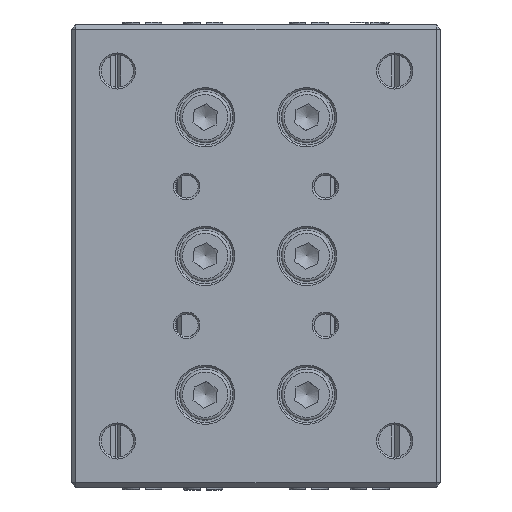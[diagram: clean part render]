
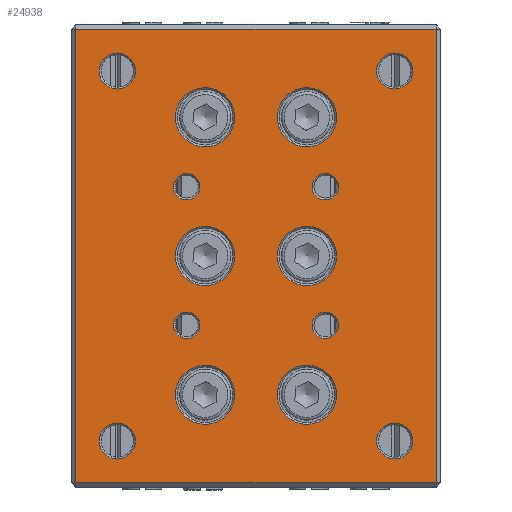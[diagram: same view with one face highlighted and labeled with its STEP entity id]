
A CAD part, front view. The second image highlights one B-rep face of the part: STEP entity #24938.
In plain terms, the highlighted planar face has unit normal (0, -1, 0).
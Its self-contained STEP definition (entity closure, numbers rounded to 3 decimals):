
#760=FACE_BOUND('',#3607,.T.);
#761=FACE_BOUND('',#3608,.T.);
#762=FACE_BOUND('',#3609,.T.);
#763=FACE_BOUND('',#3610,.T.);
#764=FACE_BOUND('',#3611,.T.);
#765=FACE_BOUND('',#3612,.T.);
#766=FACE_BOUND('',#3613,.T.);
#767=FACE_BOUND('',#3614,.T.);
#768=FACE_BOUND('',#3615,.T.);
#769=FACE_BOUND('',#3616,.T.);
#770=FACE_BOUND('',#3617,.T.);
#771=FACE_BOUND('',#3618,.T.);
#772=FACE_BOUND('',#3619,.T.);
#773=FACE_BOUND('',#3620,.T.);
#1073=PLANE('',#26545);
#2169=FACE_OUTER_BOUND('',#3606,.T.);
#3606=EDGE_LOOP('',(#17312,#17313,#17314,#17315));
#3607=EDGE_LOOP('',(#17316));
#3608=EDGE_LOOP('',(#17317));
#3609=EDGE_LOOP('',(#17318));
#3610=EDGE_LOOP('',(#17319));
#3611=EDGE_LOOP('',(#17320));
#3612=EDGE_LOOP('',(#17321));
#3613=EDGE_LOOP('',(#17322));
#3614=EDGE_LOOP('',(#17323));
#3615=EDGE_LOOP('',(#17324));
#3616=EDGE_LOOP('',(#17325));
#3617=EDGE_LOOP('',(#17326));
#3618=EDGE_LOOP('',(#17327));
#3619=EDGE_LOOP('',(#17328));
#3620=EDGE_LOOP('',(#17329));
#5311=LINE('',#35786,#7724);
#5313=LINE('',#35789,#7726);
#5327=LINE('',#35816,#7740);
#5329=LINE('',#35820,#7742);
#7724=VECTOR('',#29085,10.);
#7726=VECTOR('',#29089,10.);
#7740=VECTOR('',#29119,10.);
#7742=VECTOR('',#29125,10.);
#9911=CIRCLE('',#26546,1.43);
#9912=CIRCLE('',#26547,1.43);
#9913=CIRCLE('',#26548,1.95);
#9914=CIRCLE('',#26549,1.95);
#9915=CIRCLE('',#26550,3.2);
#9916=CIRCLE('',#26551,3.2);
#9917=CIRCLE('',#26552,3.2);
#9918=CIRCLE('',#26553,3.2);
#9919=CIRCLE('',#26554,3.2);
#9920=CIRCLE('',#26555,3.2);
#9921=CIRCLE('',#26556,1.95);
#9922=CIRCLE('',#26557,1.95);
#9923=CIRCLE('',#26558,1.43);
#9924=CIRCLE('',#26559,1.43);
#10814=VERTEX_POINT('',#35762);
#10816=VERTEX_POINT('',#35768);
#10819=VERTEX_POINT('',#35776);
#10821=VERTEX_POINT('',#35782);
#10836=VERTEX_POINT('',#35852);
#10837=VERTEX_POINT('',#35854);
#10838=VERTEX_POINT('',#35856);
#10839=VERTEX_POINT('',#35858);
#10840=VERTEX_POINT('',#35860);
#10841=VERTEX_POINT('',#35862);
#10842=VERTEX_POINT('',#35864);
#10843=VERTEX_POINT('',#35866);
#10844=VERTEX_POINT('',#35868);
#10845=VERTEX_POINT('',#35870);
#10846=VERTEX_POINT('',#35872);
#10847=VERTEX_POINT('',#35874);
#10848=VERTEX_POINT('',#35876);
#10849=VERTEX_POINT('',#35878);
#13285=EDGE_CURVE('',#10816,#10821,#5311,.T.);
#13287=EDGE_CURVE('',#10821,#10819,#5313,.T.);
#13301=EDGE_CURVE('',#10819,#10814,#5327,.T.);
#13303=EDGE_CURVE('',#10814,#10816,#5329,.T.);
#13320=EDGE_CURVE('',#10836,#10836,#9911,.T.);
#13321=EDGE_CURVE('',#10837,#10837,#9912,.T.);
#13322=EDGE_CURVE('',#10838,#10838,#9913,.T.);
#13323=EDGE_CURVE('',#10839,#10839,#9914,.T.);
#13324=EDGE_CURVE('',#10840,#10840,#9915,.T.);
#13325=EDGE_CURVE('',#10841,#10841,#9916,.T.);
#13326=EDGE_CURVE('',#10842,#10842,#9917,.T.);
#13327=EDGE_CURVE('',#10843,#10843,#9918,.T.);
#13328=EDGE_CURVE('',#10844,#10844,#9919,.T.);
#13329=EDGE_CURVE('',#10845,#10845,#9920,.T.);
#13330=EDGE_CURVE('',#10846,#10846,#9921,.T.);
#13331=EDGE_CURVE('',#10847,#10847,#9922,.T.);
#13332=EDGE_CURVE('',#10848,#10848,#9923,.T.);
#13333=EDGE_CURVE('',#10849,#10849,#9924,.T.);
#17312=ORIENTED_EDGE('',*,*,#13285,.F.);
#17313=ORIENTED_EDGE('',*,*,#13303,.F.);
#17314=ORIENTED_EDGE('',*,*,#13301,.F.);
#17315=ORIENTED_EDGE('',*,*,#13287,.F.);
#17316=ORIENTED_EDGE('',*,*,#13320,.F.);
#17317=ORIENTED_EDGE('',*,*,#13321,.F.);
#17318=ORIENTED_EDGE('',*,*,#13322,.F.);
#17319=ORIENTED_EDGE('',*,*,#13323,.F.);
#17320=ORIENTED_EDGE('',*,*,#13324,.F.);
#17321=ORIENTED_EDGE('',*,*,#13325,.F.);
#17322=ORIENTED_EDGE('',*,*,#13326,.F.);
#17323=ORIENTED_EDGE('',*,*,#13327,.F.);
#17324=ORIENTED_EDGE('',*,*,#13328,.F.);
#17325=ORIENTED_EDGE('',*,*,#13329,.F.);
#17326=ORIENTED_EDGE('',*,*,#13330,.F.);
#17327=ORIENTED_EDGE('',*,*,#13331,.F.);
#17328=ORIENTED_EDGE('',*,*,#13332,.F.);
#17329=ORIENTED_EDGE('',*,*,#13333,.F.);
#24938=ADVANCED_FACE('',(#2169,#760,#761,#762,#763,#764,#765,#766,#767,
#768,#769,#770,#771,#772,#773),#1073,.T.);
#26545=AXIS2_PLACEMENT_3D('',#35851,#29158,#29159);
#26546=AXIS2_PLACEMENT_3D('',#35853,#29160,#29161);
#26547=AXIS2_PLACEMENT_3D('',#35855,#29162,#29163);
#26548=AXIS2_PLACEMENT_3D('',#35857,#29164,#29165);
#26549=AXIS2_PLACEMENT_3D('',#35859,#29166,#29167);
#26550=AXIS2_PLACEMENT_3D('',#35861,#29168,#29169);
#26551=AXIS2_PLACEMENT_3D('',#35863,#29170,#29171);
#26552=AXIS2_PLACEMENT_3D('',#35865,#29172,#29173);
#26553=AXIS2_PLACEMENT_3D('',#35867,#29174,#29175);
#26554=AXIS2_PLACEMENT_3D('',#35869,#29176,#29177);
#26555=AXIS2_PLACEMENT_3D('',#35871,#29178,#29179);
#26556=AXIS2_PLACEMENT_3D('',#35873,#29180,#29181);
#26557=AXIS2_PLACEMENT_3D('',#35875,#29182,#29183);
#26558=AXIS2_PLACEMENT_3D('',#35877,#29184,#29185);
#26559=AXIS2_PLACEMENT_3D('',#35879,#29186,#29187);
#29085=DIRECTION('',(1.,0.,0.));
#29089=DIRECTION('',(0.,0.,-1.));
#29119=DIRECTION('',(-1.,0.,0.));
#29125=DIRECTION('',(0.,0.,1.));
#29158=DIRECTION('center_axis',(0.,-1.,0.));
#29159=DIRECTION('ref_axis',(-1.,0.,0.));
#29160=DIRECTION('center_axis',(0.,-1.,0.));
#29161=DIRECTION('ref_axis',(1.,0.,0.));
#29162=DIRECTION('center_axis',(0.,-1.,0.));
#29163=DIRECTION('ref_axis',(1.,0.,0.));
#29164=DIRECTION('center_axis',(0.,-1.,0.));
#29165=DIRECTION('ref_axis',(-1.,0.,0.));
#29166=DIRECTION('center_axis',(0.,-1.,0.));
#29167=DIRECTION('ref_axis',(-1.,0.,0.));
#29168=DIRECTION('center_axis',(0.,-1.,0.));
#29169=DIRECTION('ref_axis',(1.,0.,0.));
#29170=DIRECTION('center_axis',(0.,-1.,0.));
#29171=DIRECTION('ref_axis',(1.,0.,0.));
#29172=DIRECTION('center_axis',(0.,-1.,0.));
#29173=DIRECTION('ref_axis',(1.,0.,0.));
#29174=DIRECTION('center_axis',(0.,-1.,0.));
#29175=DIRECTION('ref_axis',(1.,0.,0.));
#29176=DIRECTION('center_axis',(0.,-1.,0.));
#29177=DIRECTION('ref_axis',(1.,0.,0.));
#29178=DIRECTION('center_axis',(0.,-1.,0.));
#29179=DIRECTION('ref_axis',(1.,0.,0.));
#29180=DIRECTION('center_axis',(0.,-1.,0.));
#29181=DIRECTION('ref_axis',(-1.,0.,0.));
#29182=DIRECTION('center_axis',(0.,-1.,0.));
#29183=DIRECTION('ref_axis',(-1.,0.,0.));
#29184=DIRECTION('center_axis',(0.,-1.,0.));
#29185=DIRECTION('ref_axis',(1.,0.,0.));
#29186=DIRECTION('center_axis',(0.,-1.,0.));
#29187=DIRECTION('ref_axis',(1.,0.,0.));
#35762=CARTESIAN_POINT('',(-53.197,0.,-14.5));
#35768=CARTESIAN_POINT('',(-53.197,0.,34.5));
#35776=CARTESIAN_POINT('',(-14.197,0.,-14.5));
#35782=CARTESIAN_POINT('',(-14.197,0.,34.5));
#35786=CARTESIAN_POINT('',(-23.697,0.,34.5));
#35789=CARTESIAN_POINT('',(-14.197,0.,35.));
#35816=CARTESIAN_POINT('',(-23.697,0.,-14.5));
#35820=CARTESIAN_POINT('',(-53.197,0.,35.));
#35851=CARTESIAN_POINT('Origin',(-13.697,0.,
35.));
#35852=CARTESIAN_POINT('',(-27.626,0.,2.5));
#35853=CARTESIAN_POINT('Origin',(-26.197,0.,
2.5));
#35854=CARTESIAN_POINT('',(-27.626,0.,17.5));
#35855=CARTESIAN_POINT('Origin',(-26.197,0.,
17.5));
#35856=CARTESIAN_POINT('',(-16.747,0.,-10.));
#35857=CARTESIAN_POINT('Origin',(-18.697,0.,
-10.));
#35858=CARTESIAN_POINT('',(-16.747,0.,30.));
#35859=CARTESIAN_POINT('Origin',(-18.697,0.,
30.));
#35860=CARTESIAN_POINT('',(-42.397,0.,-5.));
#35861=CARTESIAN_POINT('Origin',(-39.197,0.,
-5.));
#35862=CARTESIAN_POINT('',(-42.397,0.,10.));
#35863=CARTESIAN_POINT('Origin',(-39.197,0.,
10.));
#35864=CARTESIAN_POINT('',(-42.397,0.,25.));
#35865=CARTESIAN_POINT('Origin',(-39.197,0.,
25.));
#35866=CARTESIAN_POINT('',(-31.397,0.,25.));
#35867=CARTESIAN_POINT('Origin',(-28.197,0.,
25.));
#35868=CARTESIAN_POINT('',(-31.397,0.,10.));
#35869=CARTESIAN_POINT('Origin',(-28.197,0.,
10.));
#35870=CARTESIAN_POINT('',(-31.397,0.,-5.));
#35871=CARTESIAN_POINT('Origin',(-28.197,0.,
-5.));
#35872=CARTESIAN_POINT('',(-46.747,0.,30.));
#35873=CARTESIAN_POINT('Origin',(-48.697,0.,
30.));
#35874=CARTESIAN_POINT('',(-46.747,0.,-10.));
#35875=CARTESIAN_POINT('Origin',(-48.697,0.,
-10.));
#35876=CARTESIAN_POINT('',(-42.626,0.,17.5));
#35877=CARTESIAN_POINT('Origin',(-41.197,0.,
17.5));
#35878=CARTESIAN_POINT('',(-42.626,0.,2.5));
#35879=CARTESIAN_POINT('Origin',(-41.197,0.,
2.5));
